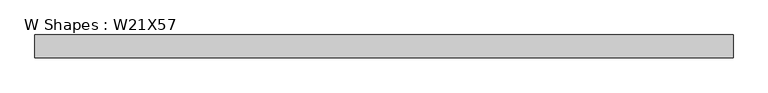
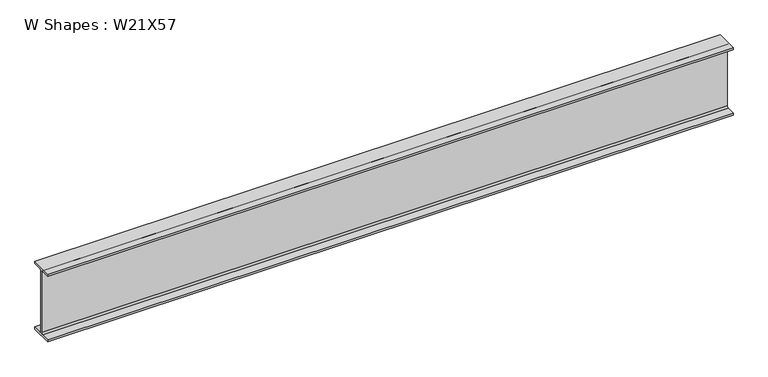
"""IFC4 building model written with IfcOpenShell, lengths in millimetres: beam geometry, W Shapes : W21X57."""

from ifc_helpers import new_model, si_unit, point, frame, frame_2d, origin, place, context, project, spatial, polyline, circle_curve, trimmed, segment, composite_curve, outline, extrude, source, transform, mapped, element, save


def w_shapes_w21x57_e88e118e(model_context):
    return source(origin(), model_context, "Body", "SweptSolid", [
        extrude(outline(composite_curve([segment(polyline([(83.312, -251.46), (83.312, -267.97), (-83.312, -267.97), (-83.312, -251.46), (-17.907, -251.46)]), True, "CONTINUOUS"), segment(trimmed(circle_curve(frame_2d((-17.907, -238.76)), 12.7), [point((-17.907, -251.46))], [point((-5.207, -238.76))], True, "CARTESIAN"), True, "CONTINUOUS"), segment(polyline([(-5.207, -238.76), (-5.207, 238.76)]), True, "CONTINUOUS"), segment(trimmed(circle_curve(frame_2d((-17.907, 238.76)), 12.7), [point((-5.207, 238.76))], [point((-17.907, 251.46))], True, "CARTESIAN"), True, "CONTINUOUS"), segment(polyline([(-17.907, 251.46), (-83.312, 251.46), (-83.312, 267.97), (83.312, 267.97), (83.312, 251.46), (17.907, 251.46)]), True, "CONTINUOUS"), segment(trimmed(circle_curve(frame_2d((17.907, 238.76)), 12.7), [point((17.907, 251.46))], [point((5.207, 238.76))], True, "CARTESIAN"), True, "CONTINUOUS"), segment(polyline([(5.207, 238.76), (5.207, -238.76)]), True, "CONTINUOUS"), segment(trimmed(circle_curve(frame_2d((17.907, -238.76)), 12.7), [point((5.207, -238.76))], [point((17.907, -251.46))], True, "CARTESIAN"), True, "CONTINUOUS"), segment(polyline([(17.907, -251.46), (83.312, -251.46)]), True, "CONTINUOUS")], self_intersect=False)), frame((-2464.8329322, 0.0, 0.0), z_axis=(1.0, 0.0, 0.0), x_axis=(0.0, 1.0, 0.0)), (0.0, 0.0, 1.0), 5131.2829322),
    ])


if __name__ == "__main__":
    model = new_model("IFC4")
    model_context = context("Model", 3, world=origin())
    ifc_project = project(units=[si_unit("LENGTHUNIT", "METRE", prefix="MILLI")], contexts=[model_context])
    site = spatial("IfcSite", under=ifc_project)
    building = spatial("IfcBuilding", under=site)
    placement = place(None, origin())
    w_shapes_w21x57_shape = w_shapes_w21x57_e88e118e(model_context)
    element("IfcBeam", 1, ObjectType="W Shapes : W21X57", at=placement, inside=building, context=model_context, shape_type="MappedRepresentation", body=[
        mapped(w_shapes_w21x57_shape, transform((0.0, 0.0, 0.0), x_axis=(1.0, 0.0, 0.0), y_axis=(0.0, 1.0, 0.0), z_axis=(0.0, 0.0, 1.0))),
    ])
    save(model, "model.ifc")
